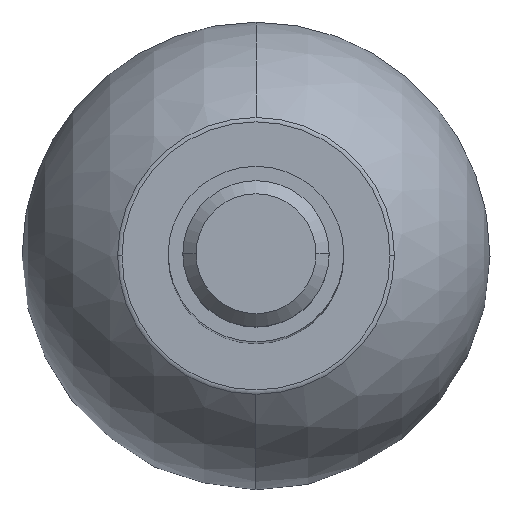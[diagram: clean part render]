
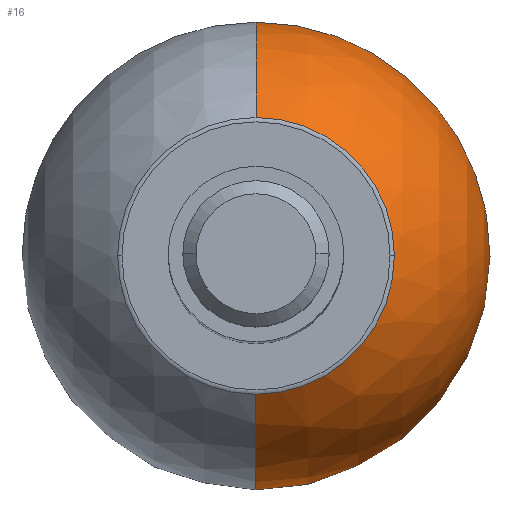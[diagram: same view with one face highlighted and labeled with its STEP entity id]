
A CAD part, top view. The second image highlights one B-rep face of the part: STEP entity #16.
In plain terms, the highlighted spherical face has radius 16 mm.
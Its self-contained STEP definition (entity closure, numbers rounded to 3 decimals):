
#16 = ADVANCED_FACE ( 'NONE', ( #325 ), #332, .T. ) ;
#26 = DIRECTION ( 'NONE',  ( 0., -1., 0. ) ) ;
#31 = AXIS2_PLACEMENT_3D ( 'NONE', #159, #83, #424 ) ;
#41 = CARTESIAN_POINT ( 'NONE',  ( 0., 0., -84. ) ) ;
#61 = CIRCLE ( 'NONE', #82, 16. ) ;
#82 = AXIS2_PLACEMENT_3D ( 'NONE', #41, #211, #26 ) ;
#83 = DIRECTION ( 'NONE',  ( 1., 0., 0. ) ) ;
#112 = EDGE_CURVE ( 'NONE', #219, #287, #468, .T. ) ;
#118 = EDGE_CURVE ( 'NONE', #287, #196, #379, .T. ) ;
#120 = DIRECTION ( 'NONE',  ( 1., 0., 0. ) ) ;
#138 = CARTESIAN_POINT ( 'NONE',  ( 0., -9.461, -71.097 ) ) ;
#159 = CARTESIAN_POINT ( 'NONE',  ( 0., 0., -84. ) ) ;
#172 = ORIENTED_EDGE ( 'NONE', *, *, #483, .T. ) ;
#196 = VERTEX_POINT ( 'NONE', #266 ) ;
#211 = DIRECTION ( 'NONE',  ( -1., 0., 0. ) ) ;
#212 = CARTESIAN_POINT ( 'NONE',  ( 0., 0., -71.097 ) ) ;
#219 = VERTEX_POINT ( 'NONE', #138 ) ;
#223 = CARTESIAN_POINT ( 'NONE',  ( 0., 0., -100. ) ) ;
#234 = CARTESIAN_POINT ( 'NONE',  ( 9.461, 0., -71.097 ) ) ;
#242 = VERTEX_POINT ( 'NONE', #223 ) ;
#266 = CARTESIAN_POINT ( 'NONE',  ( 0., 9.461, -71.097 ) ) ;
#281 = CIRCLE ( 'NONE', #31, 16. ) ;
#283 = EDGE_LOOP ( 'NONE', ( #505, #172, #301, #535 ) ) ;
#287 = VERTEX_POINT ( 'NONE', #234 ) ;
#301 = ORIENTED_EDGE ( 'NONE', *, *, #118, .F. ) ;
#325 = FACE_OUTER_BOUND ( 'NONE', #283, .T. ) ;
#332 = SPHERICAL_SURFACE ( 'NONE', #526, 16. ) ;
#379 = CIRCLE ( 'NONE', #495, 9.461 ) ;
#394 = AXIS2_PLACEMENT_3D ( 'NONE', #434, #438, #120 ) ;
#395 = DIRECTION ( 'NONE',  ( 1., 0., 0. ) ) ;
#424 = DIRECTION ( 'NONE',  ( 0., 0., -1. ) ) ;
#425 = CARTESIAN_POINT ( 'NONE',  ( 0., 0., -84. ) ) ;
#434 = CARTESIAN_POINT ( 'NONE',  ( 0., 0., -71.097 ) ) ;
#438 = DIRECTION ( 'NONE',  ( 0., 0., 1. ) ) ;
#461 = DIRECTION ( 'NONE',  ( 0., 1., 0. ) ) ;
#468 = CIRCLE ( 'NONE', #394, 9.461 ) ;
#483 = EDGE_CURVE ( 'NONE', #242, #196, #281, .T. ) ;
#495 = AXIS2_PLACEMENT_3D ( 'NONE', #212, #524, #395 ) ;
#496 = EDGE_CURVE ( 'NONE', #242, #219, #61, .T. ) ;
#505 = ORIENTED_EDGE ( 'NONE', *, *, #496, .F. ) ;
#524 = DIRECTION ( 'NONE',  ( 0., 0., 1. ) ) ;
#526 = AXIS2_PLACEMENT_3D ( 'NONE', #425, #543, #461 ) ;
#535 = ORIENTED_EDGE ( 'NONE', *, *, #112, .F. ) ;
#543 = DIRECTION ( 'NONE',  ( -1., 0., 0. ) ) ;
